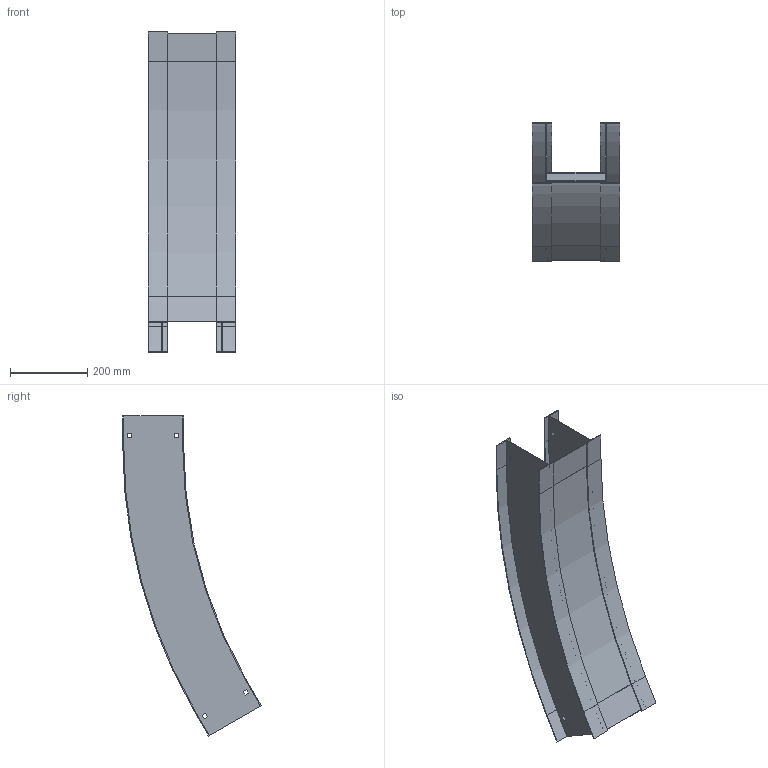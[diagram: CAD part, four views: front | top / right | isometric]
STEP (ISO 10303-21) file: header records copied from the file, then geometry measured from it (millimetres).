
FILE_DESCRIPTION((''),'2;1');
FILE_NAME('AHF606SVO3048_ASM','2010-02-02T',('erouzier'),(''),'PRO/ENGINEER BY PARAMETRIC TECHNOLOGY CORPORATION, 2008510','PRO/ENGINEER BY PARAMETRIC TECHNOLOGY CORPORATION, 2008510','');
FILE_SCHEMA(('CONFIG_CONTROL_DESIGN'));
Length unit declared in the file: inch
Products named in the file (4): CDS001658_6_30_48; CDS002159L6; ED04591_30_48_6; AHF606SVO3048_ASM
Assembly tree (6 placements, depth 2):
  AHF606SVO3048_ASM
    CDS001658_6_30_48  x2
    CDS002159L6  x3
    ED04591_30_48_6
Bounding box: 226.82 x 359.43 x 830.79 mm (x, y, z)
Volume: 1256611.3 mm3; surface area: 1202473.2 mm2
Topology: 6 solids, 6 shells, 188 faces, 520 edges, 344 vertices
Faces by surface type: plane 141, cylinder 47
Entity records: 2826 total; most frequent: CARTESIAN_POINT 480, ORIENTED_EDGE 464, DIRECTION 462, EDGE_CURVE 232, VECTOR 194, LINE 194, VERTEX_POINT 152, AXIS2_PLACEMENT_3D 134
